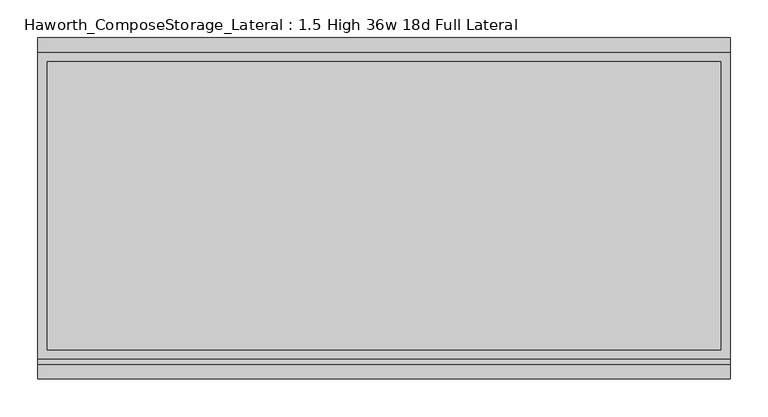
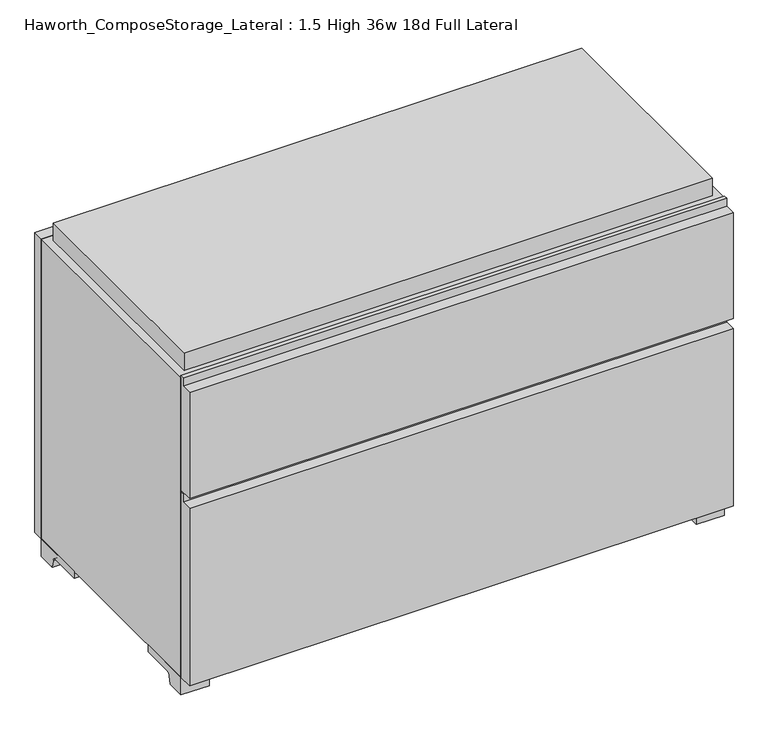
"""IFC4 building model written with IfcOpenShell, lengths in millimetres: furniture geometry, Haworth_ComposeStorage_Lateral : 1.5 High 36w 18d Full Lateral."""

from ifc_helpers import new_model, si_unit, point, frame, frame_2d, origin, place, context, project, spatial, polyline, circle_curve, trimmed, segment, composite_curve, outline, extrude, source, transform, mapped, element, save


def haworth_composestorage_lateral_1_5_high_36w_18d_full_lateral_a22ffcba(model_context):
    return source(origin(), model_context, "Body", "SweptSolid", [
        extrude(outline(polyline([(-152.4, 365.125), (-177.8, 365.125), (-177.8, 554.0375), (-158.75, 554.0375), (-158.75, 568.325), (-152.4, 568.325), (-152.4, 365.125)])), frame((-457.1861094, 0.0, 0.0), z_axis=(1.0, 0.0, 0.0), x_axis=(0.0, 1.0, 0.0)), (0.0, 0.0, 1.0), 914.4),
        extrude(outline(polyline([(-152.4, 31.75), (-177.8, 31.75), (-177.8, 347.6625), (-158.75, 347.6625), (-158.75, 361.95), (-152.4, 361.95), (-152.4, 31.75)])), frame((-457.1861094, 0.0, 0.0), z_axis=(1.0, 0.0, 0.0), x_axis=(0.0, 1.0, 0.0)), (0.0, 0.0, 1.0), 914.4),
        extrude(outline(composite_curve([segment(polyline([(-120.65, 0.0), (-152.4, 0.0), (-152.4, 31.75), (-57.15, 31.75), (-57.15, 19.05), (-112.1833333, 19.05)]), True, "CONTINUOUS"), segment(trimmed(circle_curve(frame_2d((-112.1833333, 12.7)), 6.35), [point((-112.1833333, 19.05))], [point((-118.5333333, 12.7))], True, "CARTESIAN"), True, "CONTINUOUS"), segment(polyline([(-118.5333333, 12.7), (-120.65, 0.0)]), True, "CONTINUOUS")], self_intersect=False)), frame((409.5888906, 0.0, 0.0), z_axis=(1.0, 0.0, 0.0), x_axis=(0.0, 1.0, 0.0)), (0.0, 0.0, 1.0), 47.625),
        extrude(outline(composite_curve([segment(polyline([(222.25, 0.0), (220.1333333, 12.7)]), True, "CONTINUOUS"), segment(trimmed(circle_curve(frame_2d((213.7833333, 12.7)), 6.35), [point((220.1333333, 12.7))], [point((213.7833333, 19.05))], True, "CARTESIAN"), True, "CONTINUOUS"), segment(polyline([(213.7833333, 19.05), (158.75, 19.05), (158.75, 31.75), (254.0, 31.75), (254.0, 0.0), (222.25, 0.0)]), True, "CONTINUOUS")], self_intersect=False)), frame((409.5888906, 0.0, 0.0), z_axis=(1.0, 0.0, 0.0), x_axis=(0.0, 1.0, 0.0)), (0.0, 0.0, 1.0), 47.625),
        extrude(outline(composite_curve([segment(polyline([(-120.65, 0.0), (-152.4, 0.0), (-152.4, 31.75), (-57.15, 31.75), (-57.15, 19.05), (-112.1833333, 19.05)]), True, "CONTINUOUS"), segment(trimmed(circle_curve(frame_2d((-112.1833333, 12.7)), 6.35), [point((-112.1833333, 19.05))], [point((-118.5333333, 12.7))], True, "CARTESIAN"), True, "CONTINUOUS"), segment(polyline([(-118.5333333, 12.7), (-120.65, 0.0)]), True, "CONTINUOUS")], self_intersect=False)), frame((-457.1861094, 0.0, 0.0), z_axis=(1.0, 0.0, 0.0), x_axis=(0.0, 1.0, 0.0)), (0.0, 0.0, 1.0), 47.625),
        extrude(outline(composite_curve([segment(polyline([(222.25, 0.0), (220.1333333, 12.7)]), True, "CONTINUOUS"), segment(trimmed(circle_curve(frame_2d((213.7833333, 12.7)), 6.35), [point((220.1333333, 12.7))], [point((213.7833333, 19.05))], True, "CARTESIAN"), True, "CONTINUOUS"), segment(polyline([(213.7833333, 19.05), (158.75, 19.05), (158.75, 31.75), (254.0, 31.75), (254.0, 0.0), (222.25, 0.0)]), True, "CONTINUOUS")], self_intersect=False)), frame((-457.1861094, 0.0, 0.0), z_axis=(1.0, 0.0, 0.0), x_axis=(0.0, 1.0, 0.0)), (0.0, 0.0, 1.0), 47.625),
        extrude(outline(polyline([(457.2138906, 254.0), (-457.1861094, 254.0), (-457.1861094, 273.05), (457.2138906, 273.05), (457.2138906, 254.0)])), frame((0.0, 0.0, 31.75), z_axis=(0.0, 0.0, 1.0), x_axis=(1.0, 0.0, 0.0)), (0.0, 0.0, 1.0), 533.4),
        extrude(outline(polyline([(31.75, -457.1861094), (31.75, 457.2), (565.15, 457.2), (565.15, -457.1861094), (31.75, -457.1861094)]), holes=[polyline([(50.8, -438.1361094), (514.35, -438.1361094), (514.35, 438.1361094), (50.8, 438.1361094), (50.8, -438.1361094)])]), frame((0.0, -152.4, 0.0), z_axis=(0.0, 1.0, 0.0), x_axis=(0.0, 0.0, 1.0)), (0.0, 0.0, 1.0), 406.4),
        extrude(outline(polyline([(-438.1291641, 219.075), (-438.1291641, 228.6), (438.1569453, 228.6), (438.1569453, 219.075), (-438.1291641, 219.075)])), frame((0.0, 0.0, 50.8), z_axis=(0.0, 0.0, 1.0), x_axis=(1.0, 0.0, 0.0)), (0.0, 0.0, 1.0), 463.55),
        extrude(outline(polyline([(444.5138906, 241.3), (444.5138906, -139.7), (-444.4861094, -139.7), (-444.4861094, 241.3), (444.5138906, 241.3)])), frame((0.0, 0.0, 565.15), z_axis=(0.0, 0.0, 1.0), x_axis=(1.0, 0.0, 0.0)), (0.0, 0.0, 1.0), 31.75),
    ])


if __name__ == "__main__":
    model = new_model("IFC4")
    model_context = context("Model", 3, world=origin())
    ifc_project = project(units=[si_unit("LENGTHUNIT", "METRE", prefix="MILLI")], contexts=[model_context])
    site = spatial("IfcSite", under=ifc_project)
    building = spatial("IfcBuilding", under=site)
    placement = place(None, origin())
    haworth_composestorage_lateral_1_5_high_36w_18d_full_lateral_shape = haworth_composestorage_lateral_1_5_high_36w_18d_full_lateral_a22ffcba(model_context)
    element("IfcFurniture", 1, ObjectType="Haworth_ComposeStorage_Lateral : 1.5 High 36w 18d Full Lateral", at=placement, inside=building, context=model_context, shape_type="MappedRepresentation", body=[
        mapped(haworth_composestorage_lateral_1_5_high_36w_18d_full_lateral_shape, transform((0.0, 0.0, 0.0), x_axis=(1.0, 0.0, 0.0), y_axis=(0.0, 1.0, 0.0), z_axis=(0.0, 0.0, 1.0))),
    ])
    save(model, "model.ifc")
